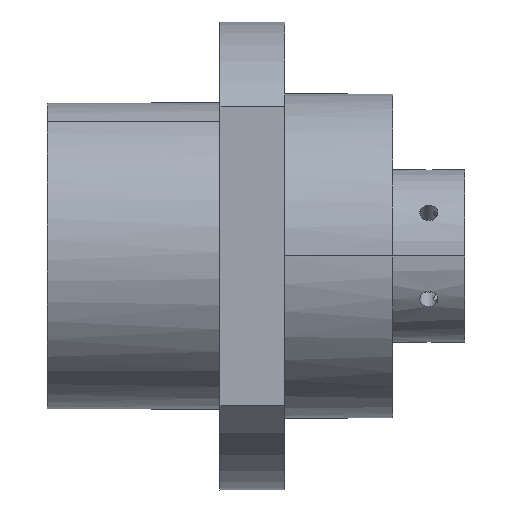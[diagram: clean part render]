
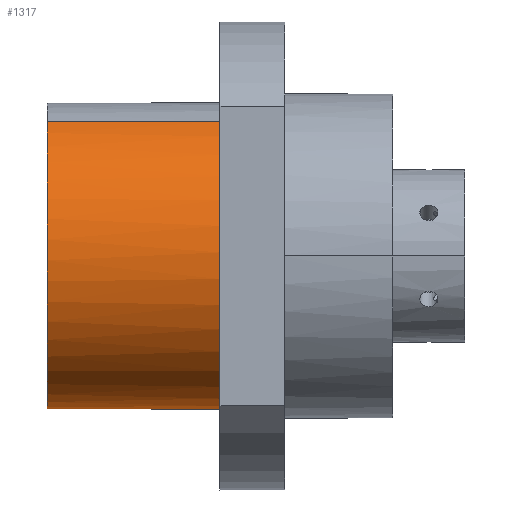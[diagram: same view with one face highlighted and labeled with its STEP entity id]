
A CAD part, front view. The second image highlights one B-rep face of the part: STEP entity #1317.
In plain terms, the highlighted cylindrical face has radius 42.5 mm (diameter 85 mm), a partial arc.
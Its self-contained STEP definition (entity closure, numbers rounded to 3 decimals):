
#673=CARTESIAN_POINT('Control Point',(-66.,-20.376,37.297)) ;
#674=CARTESIAN_POINT('Control Point',(-66.,-24.019,35.307)) ;
#675=CARTESIAN_POINT('Control Point',(-66.,-27.42,32.871)) ;
#676=CARTESIAN_POINT('Control Point',(-66.,-30.505,30.03)) ;
#677=CARTESIAN_POINT('Control Point',(-66.,-35.918,23.653)) ;
#678=CARTESIAN_POINT('Control Point',(-66.,-39.638,16.16)) ;
#679=CARTESIAN_POINT('Control Point',(-66.,-41.03,12.204)) ;
#680=CARTESIAN_POINT('Control Point',(-66.,-42.818,4.032)) ;
#681=CARTESIAN_POINT('Control Point',(-66.,-42.587,-4.33)) ;
#682=CARTESIAN_POINT('Control Point',(-66.,-41.958,-8.477)) ;
#683=CARTESIAN_POINT('Control Point',(-66.,-39.702,-16.532)) ;
#684=CARTESIAN_POINT('Control Point',(-66.,-35.574,-23.808)) ;
#685=CARTESIAN_POINT('Control Point',(-66.,-33.074,-27.175)) ;
#686=CARTESIAN_POINT('Control Point',(-66.,-27.302,-33.23)) ;
#687=CARTESIAN_POINT('Control Point',(-66.,-20.242,-37.718)) ;
#688=CARTESIAN_POINT('Control Point',(-66.,-16.454,-39.517)) ;
#689=CARTESIAN_POINT('Control Point',(-66.,-8.515,-42.156)) ;
#690=CARTESIAN_POINT('Control Point',(-66.,-0.175,-42.806)) ;
#691=CARTESIAN_POINT('Control Point',(-66.,4.014,-42.617)) ;
#692=CARTESIAN_POINT('Control Point',(-66.,9.919,-41.618)) ;
#693=CARTESIAN_POINT('Control Point',(-66.,15.527,-39.623)) ;
#694=CARTESIAN_POINT('Control Point',(-66.,17.184,-38.933)) ;
#695=CARTESIAN_POINT('Control Point',(-66.,18.803,-38.157)) ;
#696=CARTESIAN_POINT('Control Point',(-66.,20.376,-37.297)) ;
#697=CARTESIAN_POINT('Vertex',(-66.,-20.376,37.297)) ;
#699=CARTESIAN_POINT('Vertex',(-66.,20.376,-37.297)) ;
#1287=CARTESIAN_POINT('Axis2P3D Location',(-84.861,0.,0.)) ;
#1292=CARTESIAN_POINT('Line Origine',(-84.861,20.376,-37.297)) ;
#1296=CARTESIAN_POINT('Vertex',(-18.,20.376,-37.297)) ;
#1299=CARTESIAN_POINT('Axis2P3D Location',(-18.,0.,0.)) ;
#1303=CARTESIAN_POINT('Vertex',(-18.,-20.376,37.297)) ;
#1306=CARTESIAN_POINT('Line Origine',(-84.861,-20.376,37.297)) ;
#1288=DIRECTION('Axis2P3D Direction',(1.,0.,0.)) ;
#1289=DIRECTION('Axis2P3D XDirection',(0.,-0.479,0.878)) ;
#1293=DIRECTION('Vector Direction',(1.,0.,0.)) ;
#1300=DIRECTION('Axis2P3D Direction',(1.,0.,0.)) ;
#1307=DIRECTION('Vector Direction',(1.,0.,0.)) ;
#1290=AXIS2_PLACEMENT_3D('Cylinder Axis2P3D',#1287,#1288,#1289) ;
#1301=AXIS2_PLACEMENT_3D('Circle Axis2P3D',#1299,#1300,$) ;
#1312=ORIENTED_EDGE('',*,*,#1298,.F.) ;
#1313=ORIENTED_EDGE('',*,*,#1305,.F.) ;
#1314=ORIENTED_EDGE('',*,*,#1310,.T.) ;
#1315=ORIENTED_EDGE('',*,*,#701,.T.) ;
#1294=VECTOR('Line Direction',#1293,1.) ;
#1308=VECTOR('Line Direction',#1307,1.) ;
#1317=ADVANCED_FACE('WBK30DFT(H)',(#1316),#1291,.T.) ;
#672=B_SPLINE_CURVE_WITH_KNOTS('',5,(#673,#674,#675,#676,#677,#678,#679,#680,#681,#682,#683,#684,#685,#686,#687,#688,#689,#690,#691,#692,#693,#694,#695,#696),.UNSPECIFIED.,.F.,.U.,(6,3,3,3,3,3,3,6),(0.,29.358,58.716,88.073,117.431,146.789,176.147,188.821),.UNSPECIFIED.) ;
#1302=CIRCLE('generated circle',#1301,42.5) ;
#1291=CYLINDRICAL_SURFACE('generated cylinder',#1290,42.5) ;
#701=EDGE_CURVE('',#698,#700,#672,.T.) ;
#1298=EDGE_CURVE('',#1297,#700,#1295,.F.) ;
#1305=EDGE_CURVE('',#1304,#1297,#1302,.T.) ;
#1310=EDGE_CURVE('',#1304,#698,#1309,.F.) ;
#1311=EDGE_LOOP('',(#1312,#1313,#1314,#1315)) ;
#1316=FACE_OUTER_BOUND('',#1311,.T.) ;
#1295=LINE('Line',#1292,#1294) ;
#1309=LINE('Line',#1306,#1308) ;
#698=VERTEX_POINT('',#697) ;
#700=VERTEX_POINT('',#699) ;
#1297=VERTEX_POINT('',#1296) ;
#1304=VERTEX_POINT('',#1303) ;
